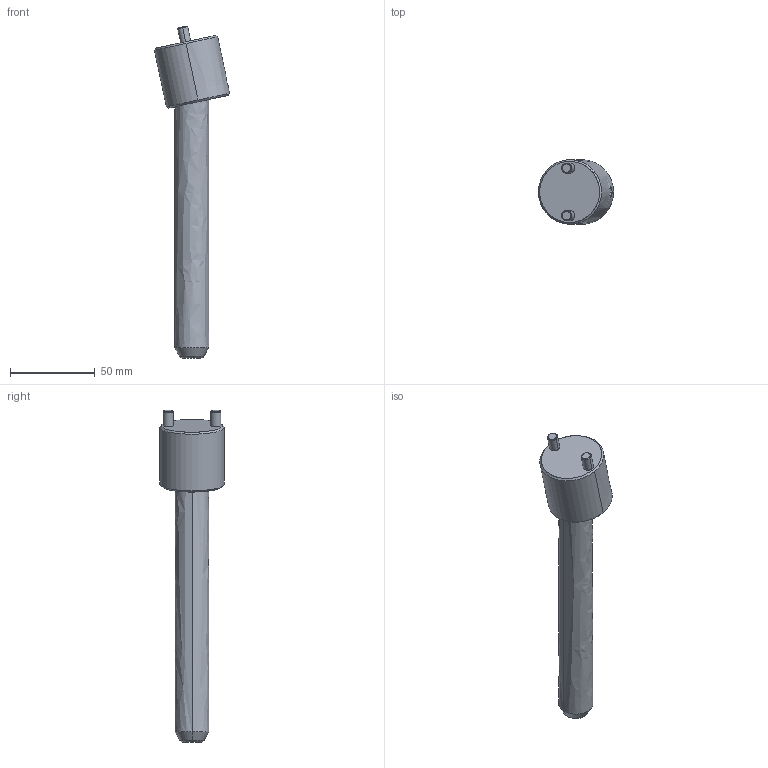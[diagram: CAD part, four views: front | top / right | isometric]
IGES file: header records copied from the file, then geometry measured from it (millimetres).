
Start section: START RECORD GO HERE.
Global section: file name: CI1220150.igs; native system: DASSAULT SYSTEMES CATIA V5 R20 - www.3ds.com; preprocessor: CATIA Version 5 Release 20 ; author: r.borello; organization: CFTORINO; date: 20190621.160633; units: millimetre
Bounding box: 44.24 x 38 x 195.37 mm (x, y, z)
Surface area: 20587.5 mm2 (no closed solid volume)
Topology: 0 solids, 0 shells, 39 faces, 162 edges, 160 vertices
Faces by surface type: revolution 32, plane 7
